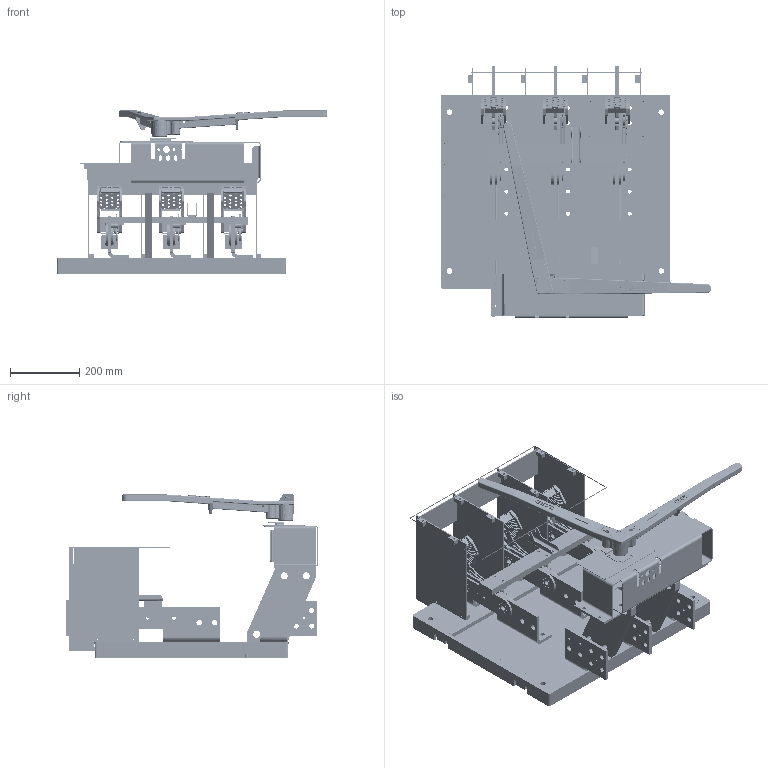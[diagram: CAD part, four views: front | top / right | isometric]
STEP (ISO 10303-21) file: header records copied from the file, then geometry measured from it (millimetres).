
FILE_DESCRIPTION(/* description */ (''),/* implementation_level */ '2;1');
FILE_NAME(/* name */ 'H:\switches\3d-templates\catalog-switches-iges-files\CATALOG-VL369.stp',/* time_stamp */ '2022-03-23T14:17:04-05:00',/* author */ ('MKingston'),/* organization */ (''),/* preprocessor_version */ 'ST-DEVELOPER v18.1',/* originating_system */ 'Autodesk Inventor 2022',/* authorisation */ '');
FILE_SCHEMA (('AUTOMOTIVE_DESIGN { 1 0 10303 214 3 1 1 }'));
Products named in the file (38): vl369; 277; 668-D; 668-C; 668-E; catalog-56-qj-arcchute-assy; 363-da; 363-da_MIR; 50-QLX; 50-QRX; 56-QJS; 57-QJSB; 57-QJST; catalog-vl369-blade-assy; 67-AL; 67-AR; 67-fc3; 67-gc3; 67-M; 67-j; ANSI/ASME B18.7 - T 0.252 x 17/32; ANSI/ASME B18.7 - T 0.188 x 17/32; 235-b; 230-a; 246-a; 820-bw1; 820-fw3; 255-z; 67-ZBA; 221-RP,R3; 255-bha; 255-c; 178-c; 672-ha; 178-b; 223-FE; 223-d-transparent; 223-d-transparent-red
Assembly tree (71 placements, depth 3):
  vl369
    277
    668-D  x3
    668-C  x3
    668-E  x3
    catalog-56-qj-arcchute-assy  x3
      363-da
      363-da_MIR
      50-QLX
      50-QRX
      56-QJS
      57-QJSB
      57-QJST
    catalog-vl369-blade-assy  x3
      67-AL
      67-AR
      67-fc3
      67-gc3
      67-j
      67-M
      ANSI/ASME B18.7 - T 0.252 x 17/32
      ANSI/ASME B18.7 - T 0.188 x 17/32
    235-b
    230-a
    255-bha  x4
    246-a  x2
    820-bw1
    820-fw3
    255-z
    67-ZBA  x3
    221-RP,R3
    255-c
    178-c  x8
    178-b  x8
    672-ha
    223-FE
    223-d-transparent
    223-d-transparent-red
Bounding box: 779.35 x 726.77 x 469.37 mm (x, y, z)
Volume: 14717606.5 mm3; surface area: 3751268.6 mm2
Topology: 110 solids, 111 shells, 4706 faces, 12206 edges, 8020 vertices
Faces by surface type: plane 2411, cylinder 1289, cone 460, bspline 442, torus 92, sphere 12
Full cylindrical faces by diameter (mm): 1.702 x8, 3.175 x4, 3.302 x2, 3.454 x4, 3.683 x8, 3.759 x12, 3.962 x4, 4.305 x42, 4.496 x24, 4.762 x4, 4.775 x11, 4.801 x8, 4.902 x14, 4.915 x24, 4.978 x3, 5.556 x3, 5.791 x6, 6.35 x40, 6.401 x9, 6.528 x71, 7.144 x12, 7.798 x2, 7.938 x18, 8.077 x3, 8.331 x2, 8.731 x2, 9.525 x3, 9.601 x2, 9.804 x2, 9.906 x13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
Entity records: 92467 total; most frequent: CARTESIAN_POINT 24296, ORIENTED_EDGE 13896, DIRECTION 13483, EDGE_CURVE 6956, AXIS2_PLACEMENT_3D 4649, VERTEX_POINT 4568, LINE 4185, VECTOR 4185
